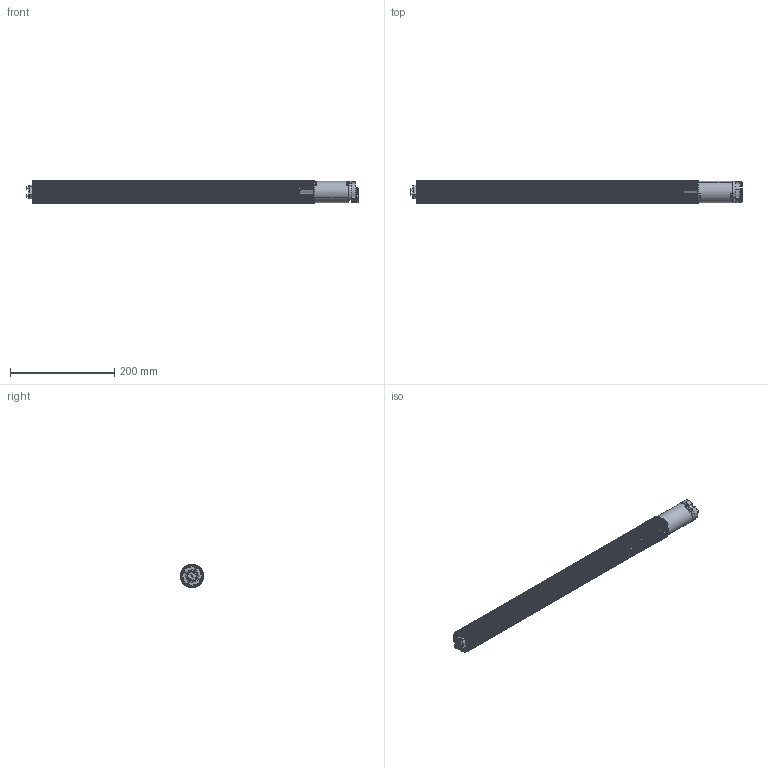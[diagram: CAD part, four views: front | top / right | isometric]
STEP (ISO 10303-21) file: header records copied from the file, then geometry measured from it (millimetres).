
FILE_DESCRIPTION (( 'STEP AP203' ), '1' );
FILE_NAME ('3D_TA45.STEP', '2025-03-07T10:42:21', ( '' ), ( '' ), 'SwSTEP 2.0', 'SolidWorks 2015', '' );
FILE_SCHEMA (( 'CONFIG_CONTROL_DESIGN' ));
Products named in the file (1): 3D_TA45
Bounding box: 638.4 x 44.95 x 44.94 mm (x, y, z)
Volume: 234081.3 mm3; surface area: 291358.6 mm2
Topology: 8 solids, 8 shells, 5728 faces, 14385 edges, 8577 vertices
Faces by surface type: cylinder 2128, torus 1831, plane 798, cone 589, bspline 297, sphere 85
Entity records: 186844 total; most frequent: CARTESIAN_POINT 48274, DIRECTION 32016, ORIENTED_EDGE 28552, EDGE_CURVE 14276, AXIS2_PLACEMENT_3D 13932, VERTEX_POINT 8576, CIRCLE 8500, EDGE_LOOP 5794
